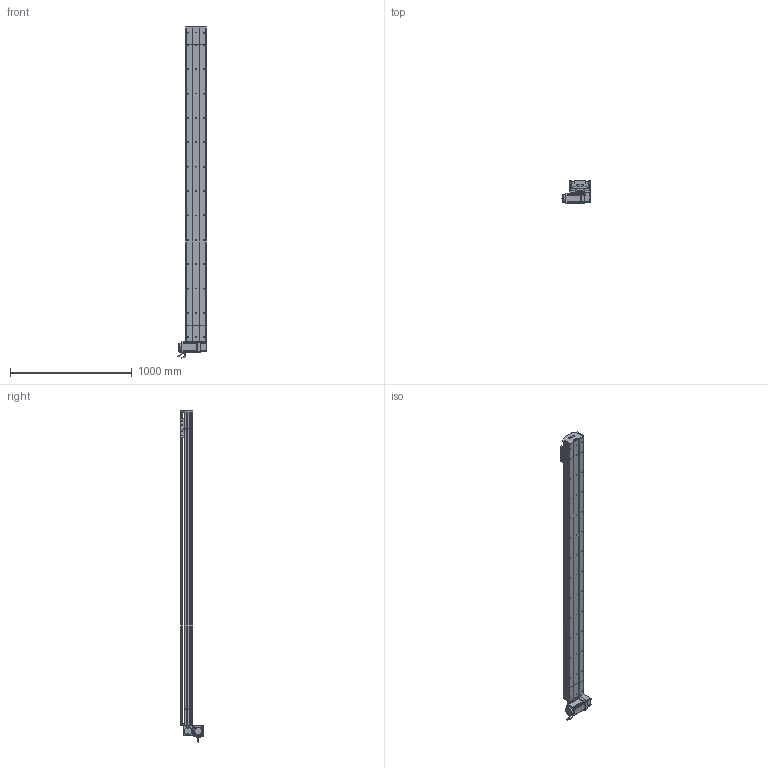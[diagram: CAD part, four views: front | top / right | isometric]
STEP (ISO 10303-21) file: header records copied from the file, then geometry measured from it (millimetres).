
FILE_DESCRIPTION (( 'STEP AP214' ), '1' );
FILE_NAME ('D17 TBH LU S2300.STEP', '2010-06-30T08:35:29', ( 'Christophe Gaillard' ), ( 'SGA' ), 'SwSTEP 2.0', 'SolidWorks 2010', '' );
FILE_SCHEMA (( 'AUTOMOTIVE_DESIGN' ));
Length unit declared in the file: millimetre
Products named in the file (40): corpl head D17 _Default; couvercle D17B head_Default; Arbre+rail head D17B; plaque de  bout head D17B LU_Default; vis M5 L8 90°_Default; Head LU D17B_Default; chariot D17S_Default; Chariot D17; guide D17; vis M5 L12_Default; vis M5 L25_Default; D17 TBH LU S2300; cache D17_Default; couvercle D17B course L2300_Default; Couroie+ rail D17 Course 2300 ; course 2300 D17B_Default; corp D17B 2300_Default; couvercle D17B_Default; cache arbre D17_Default; poulie head_Default; vis M5 L5_Default; Moteur motionking 90BLDC125A-640; Renvoi LU_Default; couroie head D17_Default; codeur 90BLDC125-640; corps 90BLDC125A-640; avant 90BLDC125A-640; Plaque racord D17_Default; vis M5 L70_Default; Conecteur_Default; Conecteur2_Default; Tail D17B+100_Default; Vis M5 L16-2_Default; vis M5 L16_Default; Rail D17B; tete d''axe poulie D17B; corp tail D17B+100_Default; Couroie tail D17B_Default; poulie tail_Default; plaque de  bout tail D17B_Default
Assembly tree (70 placements, depth 4):
  D17 TBH LU S2300
    course 2300 D17B_Default
      corp D17B 2300_Default
      couvercle D17B course L2300_Default
      Couroie+ rail D17 Course 2300 
    chariot D17S_Default
      vis M5 L12_Default  x4
      guide D17  x2
      Chariot D17
    Tail D17B+100_Default
      vis M5 L8 90°_Default  x2
      plaque de  bout tail D17B_Default
      vis M5 L12_Default  x4
      Rail D17B
      corp tail D17B+100_Default
      couvercle D17B_Default
      Couroie tail D17B_Default
      vis M5 L25_Default  x2
      tete d''axe poulie D17B
      poulie tail_Default
    Head LU D17B_Default
      vis M5 L25_Default  x2
      poulie head_Default
      Plaque racord D17_Default
      vis M5 L12_Default  x8
      couroie head D17_Default
      vis M5 L70_Default  x4
      Vis M5 L16-2_Default  x4
      cache D17_Default  x2
      Arbre+rail head D17B
      vis M5 L5_Default  x4
      cache arbre D17_Default
      Renvoi LU_Default
      corpl head D17 _Default
      plaque de  bout head D17B LU_Default
      couvercle D17B head_Default
      vis M5 L16_Default  x2
      Moteur motionking 90BLDC125A-640
        codeur 90BLDC125-640
        Conecteur_Default
        avant 90BLDC125A-640
        Conecteur2_Default
        corps 90BLDC125A-640
Bounding box: 245.2 x 188.65 x 2723.95 mm (x, y, z)
Volume: 15871759.9 mm3; surface area: 4583607.3 mm2
Topology: 94 solids, 94 shells, 2741 faces, 6971 edges, 4486 vertices
Faces by surface type: plane 1611, cylinder 817, bspline 136, cone 88, torus 85, sphere 4
Entity records: 86482 total; most frequent: CARTESIAN_POINT 25415, ORIENTED_EDGE 10714, DIRECTION 10150, EDGE_CURVE 5357, VECTOR 3520, LINE 3520, VERTEX_POINT 3510, AXIS2_PLACEMENT_3D 3315
